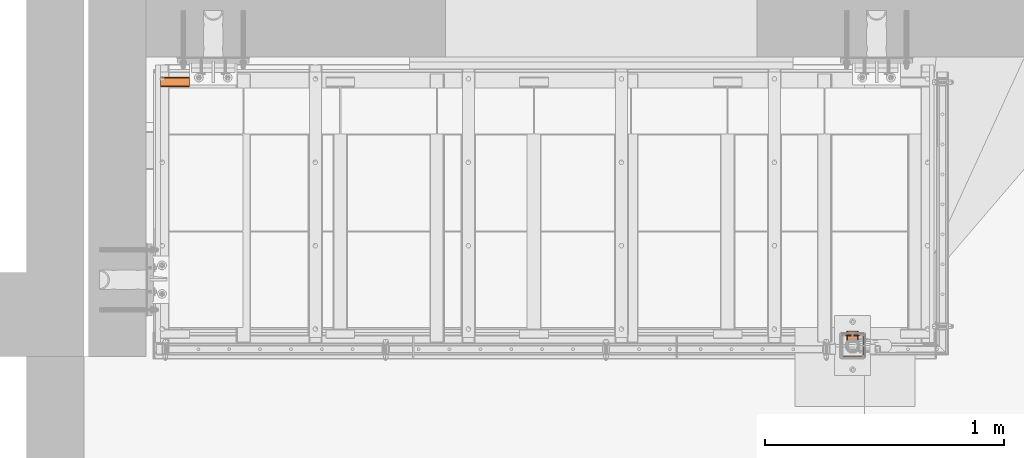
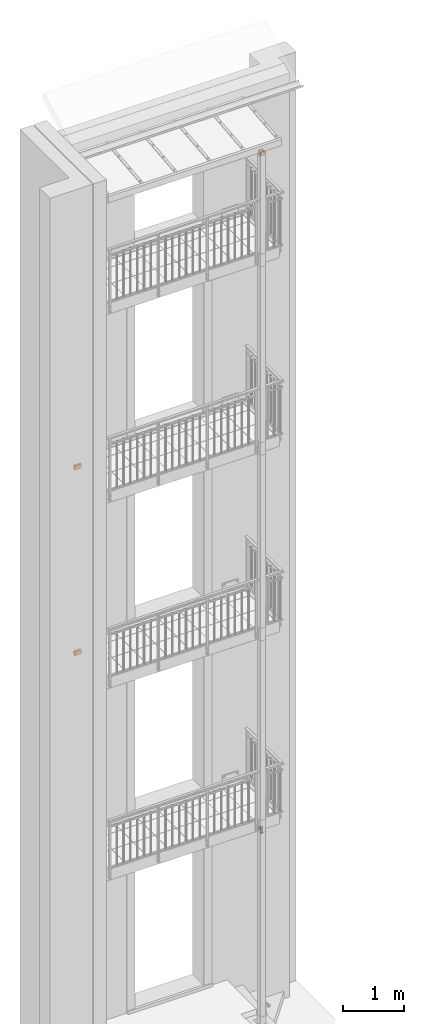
# One storey, part 92 of 162: 4 proxies.
"""IFC2X3 building model written with IfcOpenShell, lengths in millimetres."""

from ifc_helpers import new_model, entity, si_unit, converted_unit, origin_with_axes, place, context, project, spatial, faceted_brep, material, element, save


model = new_model("IFC2X3")

# Units and contexts
model_context = context("Model", 3, precision=1e-09, world=origin_with_axes())
ifc_project = project(units=[si_unit("LENGTHUNIT", "METRE", prefix="MILLI"), si_unit("AREAUNIT", "SQUARE_METRE"), si_unit("VOLUMEUNIT", "CUBIC_METRE"), converted_unit("PLANEANGLEUNIT", "DEGREE", entity("IfcPlaneAngleMeasure", 0.01745329), si_unit("PLANEANGLEUNIT", "RADIAN"), dimensions=[0, 0, 0, 0, 0, 0, 0])], contexts=[model_context])

# Site, building, storey
site_placement = place(None, origin_with_axes())
site = spatial("IfcSite", under=ifc_project, at=site_placement, Name="Hermannstra?e 1a, 60318 Frankfurt", CompositionType="ELEMENT")
building_placement = place(site_placement, origin_with_axes())
building = spatial("IfcBuilding", under=site, at=building_placement, Name="Struktur 1", CompositionType="ELEMENT")
storey_placement = place(building_placement, origin_with_axes())
storey = spatial("IfcBuildingStorey", under=building, at=storey_placement, Name="Default Storey", CompositionType="ELEMENT", Elevation=0.0)

# Proxies
ifc_material_1 = material(Name="Alu")
proxy_1_placement = place(None, origin_with_axes())
element("IfcBuildingElementProxy", 1, at=proxy_1_placement, inside=storey, material=ifc_material_1, ObjectType="-", context=model_context, shape_type="Brep", body=[
    faceted_brep([(2703.30936482, 2612.413221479, 7558.0), (2703.30936482, 2614.609373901, 7555.803847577), (2703.30936482, 2617.609373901, 7555.0), (2703.30936482, 2645.609373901, 7555.0), (2703.30936482, 2648.609373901, 7555.803847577), (2703.30936482, 2650.805526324, 7558.0), (2703.30936482, 2651.609373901, 7561.0), (2703.30936482, 2651.609373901, 7639.0), (2703.30936482, 2650.805526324, 7642.0), (2703.30936482, 2648.609373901, 7644.196152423), (2703.30936482, 2645.609373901, 7645.0), (2703.30936482, 2617.609373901, 7645.0), (2703.30936482, 2614.609373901, 7644.196152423), (2703.30936482, 2612.413221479, 7642.0), (2703.30936482, 2611.609373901, 7639.0), (2703.30936482, 2611.609373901, 7561.0), (2703.30936482, 2614.609373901, 7561.0), (2703.30936482, 2614.609373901, 7639.0), (2703.30936482, 2615.01129769, 7640.5), (2703.30936482, 2616.109373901, 7641.598076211), (2703.30936482, 2617.609373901, 7642.0), (2703.30936482, 2645.609373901, 7642.0), (2703.30936482, 2647.109373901, 7641.598076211), (2703.30936482, 2648.207450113, 7640.5), (2703.30936482, 2648.609373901, 7639.0), (2703.30936482, 2648.609373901, 7561.0), (2703.30936482, 2648.207450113, 7559.5), (2703.30936482, 2647.109373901, 7558.401923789), (2703.30936482, 2645.609373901, 7558.0), (2703.30936482, 2617.609373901, 7558.0), (2703.30936482, 2616.109373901, 7558.401923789), (2703.30936482, 2615.01129769, 7559.5), (2583.30936482, 2614.609373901, 7561.0), (2583.30936482, 2615.01129769, 7559.5), (2583.30936482, 2611.609373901, 7561.0), (2583.30936482, 2612.413221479, 7558.0), (2583.30936482, 2611.609373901, 7639.0), (2583.30936482, 2612.413221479, 7642.0), (2583.30936482, 2614.609373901, 7644.196152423), (2583.30936482, 2617.609373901, 7645.0), (2583.30936482, 2645.609373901, 7645.0), (2583.30936482, 2648.609373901, 7644.196152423), (2583.30936482, 2650.805526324, 7642.0), (2583.30936482, 2651.609373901, 7639.0), (2583.30936482, 2651.609373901, 7561.0), (2583.30936482, 2650.805526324, 7558.0), (2583.30936482, 2648.609373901, 7555.803847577), (2583.30936482, 2645.609373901, 7555.0), (2583.30936482, 2617.609373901, 7555.0), (2583.30936482, 2614.609373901, 7555.803847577), (2583.30936482, 2614.609373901, 7639.0), (2583.30936482, 2616.109373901, 7558.401923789), (2583.30936482, 2617.609373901, 7558.0), (2583.30936482, 2645.609373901, 7558.0), (2583.30936482, 2647.109373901, 7558.401923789), (2583.30936482, 2648.207450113, 7559.5), (2583.30936482, 2648.609373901, 7561.0), (2583.30936482, 2648.609373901, 7639.0), (2583.30936482, 2648.207450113, 7640.5), (2583.30936482, 2647.109373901, 7641.598076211), (2583.30936482, 2645.609373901, 7642.0), (2583.30936482, 2617.609373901, 7642.0), (2583.30936482, 2616.109373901, 7641.598076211), (2583.30936482, 2615.01129769, 7640.5)], [[[0, 1, 2, 3, 4, 5, 6, 7, 8, 9, 10, 11, 12, 13, 14, 15], [16, 17, 18, 19, 20, 21, 22, 23, 24, 25, 26, 27, 28, 29, 30, 31]], [[32, 16, 31, 33]], [[15, 34, 35, 0]], [[36, 37, 38, 39, 40, 41, 42, 43, 44, 45, 46, 47, 48, 49, 35, 34], [50, 32, 33, 51, 52, 53, 54, 55, 56, 57, 58, 59, 60, 61, 62, 63]], [[17, 16, 32, 50]], [[36, 34, 15, 14]], [[36, 14, 13, 37]], [[33, 31, 30, 51]], [[0, 35, 49, 1]], [[17, 50, 63, 18]], [[37, 13, 12, 38]], [[51, 30, 29, 52]], [[1, 49, 48, 2]], [[18, 63, 62, 19]], [[38, 12, 11, 39]], [[53, 52, 29, 28]], [[3, 2, 48, 47]], [[19, 62, 61, 20]], [[40, 39, 11, 10]], [[21, 20, 61, 60]], [[53, 28, 27, 54]], [[3, 47, 46, 4]], [[40, 10, 9, 41]], [[21, 60, 59, 22]], [[54, 27, 26, 55]], [[4, 46, 45, 5]], [[44, 6, 5, 45]], [[41, 9, 8, 42]], [[22, 59, 58, 23]], [[55, 26, 25, 56]], [[7, 6, 44, 43]], [[57, 24, 23, 58]], [[25, 24, 57, 56]], [[42, 8, 7, 43]]]),
])
proxy_2_placement = place(None, origin_with_axes())
element("IfcBuildingElementProxy", 2, at=proxy_2_placement, inside=storey, material=ifc_material_1, ObjectType="-", context=model_context, shape_type="Brep", body=[
    faceted_brep([(2703.30936482, 2612.413221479, 11257.999), (2703.30936482, 2614.609373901, 11255.802847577), (2703.30936482, 2617.609373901, 11254.999), (2703.30936482, 2645.609373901, 11254.999), (2703.30936482, 2648.609373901, 11255.802847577), (2703.30936482, 2650.805526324, 11257.999), (2703.30936482, 2651.609373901, 11260.999), (2703.30936482, 2651.609373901, 11338.999), (2703.30936482, 2650.805526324, 11341.999), (2703.30936482, 2648.609373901, 11344.195152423), (2703.30936482, 2645.609373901, 11344.999), (2703.30936482, 2617.609373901, 11344.999), (2703.30936482, 2614.609373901, 11344.195152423), (2703.30936482, 2612.413221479, 11341.999), (2703.30936482, 2611.609373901, 11338.999), (2703.30936482, 2611.609373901, 11260.999), (2703.30936482, 2614.609373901, 11260.999), (2703.30936482, 2614.609373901, 11338.999), (2703.30936482, 2615.01129769, 11340.499), (2703.30936482, 2616.109373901, 11341.597076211), (2703.30936482, 2617.609373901, 11341.999), (2703.30936482, 2645.609373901, 11341.999), (2703.30936482, 2647.109373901, 11341.597076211), (2703.30936482, 2648.207450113, 11340.499), (2703.30936482, 2648.609373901, 11338.999), (2703.30936482, 2648.609373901, 11260.999), (2703.30936482, 2648.207450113, 11259.499), (2703.30936482, 2647.109373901, 11258.400923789), (2703.30936482, 2645.609373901, 11257.999), (2703.30936482, 2617.609373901, 11257.999), (2703.30936482, 2616.109373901, 11258.400923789), (2703.30936482, 2615.01129769, 11259.499), (2583.30936482, 2614.609373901, 11260.999), (2583.30936482, 2615.01129769, 11259.499), (2583.30936482, 2611.609373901, 11260.999), (2583.30936482, 2612.413221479, 11257.999), (2583.30936482, 2611.609373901, 11338.999), (2583.30936482, 2612.413221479, 11341.999), (2583.30936482, 2614.609373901, 11344.195152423), (2583.30936482, 2617.609373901, 11344.999), (2583.30936482, 2645.609373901, 11344.999), (2583.30936482, 2648.609373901, 11344.195152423), (2583.30936482, 2650.805526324, 11341.999), (2583.30936482, 2651.609373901, 11338.999), (2583.30936482, 2651.609373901, 11260.999), (2583.30936482, 2650.805526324, 11257.999), (2583.30936482, 2648.609373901, 11255.802847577), (2583.30936482, 2645.609373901, 11254.999), (2583.30936482, 2617.609373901, 11254.999), (2583.30936482, 2614.609373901, 11255.802847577), (2583.30936482, 2614.609373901, 11338.999), (2583.30936482, 2616.109373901, 11258.400923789), (2583.30936482, 2617.609373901, 11257.999), (2583.30936482, 2645.609373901, 11257.999), (2583.30936482, 2647.109373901, 11258.400923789), (2583.30936482, 2648.207450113, 11259.499), (2583.30936482, 2648.609373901, 11260.999), (2583.30936482, 2648.609373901, 11338.999), (2583.30936482, 2648.207450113, 11340.499), (2583.30936482, 2647.109373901, 11341.597076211), (2583.30936482, 2645.609373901, 11341.999), (2583.30936482, 2617.609373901, 11341.999), (2583.30936482, 2616.109373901, 11341.597076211), (2583.30936482, 2615.01129769, 11340.499)], [[[0, 1, 2, 3, 4, 5, 6, 7, 8, 9, 10, 11, 12, 13, 14, 15], [16, 17, 18, 19, 20, 21, 22, 23, 24, 25, 26, 27, 28, 29, 30, 31]], [[32, 16, 31, 33]], [[15, 34, 35, 0]], [[36, 37, 38, 39, 40, 41, 42, 43, 44, 45, 46, 47, 48, 49, 35, 34], [50, 32, 33, 51, 52, 53, 54, 55, 56, 57, 58, 59, 60, 61, 62, 63]], [[17, 16, 32, 50]], [[36, 34, 15, 14]], [[36, 14, 13, 37]], [[33, 31, 30, 51]], [[0, 35, 49, 1]], [[17, 50, 63, 18]], [[37, 13, 12, 38]], [[51, 30, 29, 52]], [[1, 49, 48, 2]], [[18, 63, 62, 19]], [[38, 12, 11, 39]], [[53, 52, 29, 28]], [[3, 2, 48, 47]], [[19, 62, 61, 20]], [[40, 39, 11, 10]], [[21, 20, 61, 60]], [[53, 28, 27, 54]], [[3, 47, 46, 4]], [[40, 10, 9, 41]], [[21, 60, 59, 22]], [[54, 27, 26, 55]], [[4, 46, 45, 5]], [[44, 6, 5, 45]], [[41, 9, 8, 42]], [[22, 59, 58, 23]], [[55, 26, 25, 56]], [[7, 6, 44, 43]], [[57, 24, 23, 58]], [[25, 24, 57, 56]], [[42, 8, 7, 43]]]),
])
ifc_material_2 = material(Name="S235JR")
proxy_3_placement = place(None, origin_with_axes())
element("IfcBuildingElementProxy", 3, at=proxy_3_placement, inside=storey, material=ifc_material_2, ObjectType="-", context=model_context, shape_type="Brep", body=[
    faceted_brep([(5438.978371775, 1485.609373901, 17270.5005), (5438.978371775, 1489.609373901, 17270.5005), (5440.80886482, 1489.609373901, 17272.330993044), (5440.80886482, 1485.609373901, 17272.330993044), (5438.30836482, 1485.609373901, 17268.0), (5438.30836482, 1489.609373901, 17268.0), (5438.978371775, 1485.609373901, 17265.4995), (5438.978371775, 1489.609373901, 17265.4995), (5436.30936482, 1485.609373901, 17277.0), (5436.30936482, 1485.609373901, 17197.0), (5510.30936482, 1485.609373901, 17197.0), (5510.30936482, 1485.609373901, 17277.0), (5443.30936482, 1485.609373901, 17273.001), (5445.80986482, 1485.609373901, 17272.330993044), (5447.640357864, 1485.609373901, 17270.5005), (5448.31036482, 1485.609373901, 17268.0), (5447.640357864, 1485.609373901, 17265.4995), (5445.80986482, 1485.609373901, 17263.669006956), (5443.30936482, 1485.609373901, 17262.999), (5440.80886482, 1485.609373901, 17263.669006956), (5510.30936482, 1489.609373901, 17197.0), (5436.30936482, 1489.609373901, 17197.0), (5436.30936482, 1489.609373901, 17277.0), (5510.30936482, 1489.609373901, 17277.0), (5440.80886482, 1489.609373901, 17263.669006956), (5443.30936482, 1489.609373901, 17262.999), (5445.80986482, 1489.609373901, 17263.669006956), (5447.640357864, 1489.609373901, 17265.4995), (5448.31036482, 1489.609373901, 17268.0), (5447.640357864, 1489.609373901, 17270.5005), (5445.80986482, 1489.609373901, 17272.330993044), (5443.30936482, 1489.609373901, 17273.001), (5434.30936482, 1490.145272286, 17197.0), (5434.30936482, 1490.145272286, 17277.0), (5432.30936482, 1486.681170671, 17197.0), (5432.30936482, 1486.681170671, 17277.0), (5429.381161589, 1489.609373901, 17277.0), (5429.381161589, 1489.609373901, 17197.0), (5428.30936482, 1567.609373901, 17277.0), (5428.30936482, 1493.609373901, 17277.0), (5514.30936482, 1486.681170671, 17277.0), (5517.23756805, 1489.609373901, 17277.0), (5518.30936482, 1493.609373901, 17277.0), (5518.30936482, 1567.609373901, 17277.0), (5517.23756805, 1571.609373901, 17277.0), (5514.30936482, 1574.537577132, 17277.0), (5510.30936482, 1575.609373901, 17277.0), (5436.30936482, 1575.609373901, 17277.0), (5432.30936482, 1574.537577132, 17277.0), (5429.381161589, 1571.609373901, 17277.0), (5432.845263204, 1491.609373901, 17277.0), (5432.30936482, 1493.609373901, 17277.0), (5432.30936482, 1567.609373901, 17277.0), (5432.845263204, 1569.609373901, 17277.0), (5434.30936482, 1571.073475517, 17277.0), (5436.30936482, 1571.609373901, 17277.0), (5510.30936482, 1571.609373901, 17277.0), (5512.30936482, 1571.073475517, 17277.0), (5513.773466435, 1569.609373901, 17277.0), (5514.30936482, 1567.609373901, 17277.0), (5514.30936482, 1493.609373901, 17277.0), (5513.773466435, 1491.609373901, 17277.0), (5512.30936482, 1490.145272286, 17277.0), (5432.845263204, 1491.609373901, 17197.0), (5428.30936482, 1493.609373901, 17197.0), (5428.30936482, 1567.609373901, 17197.0), (5429.381161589, 1571.609373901, 17197.0), (5432.30936482, 1574.537577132, 17197.0), (5436.30936482, 1575.609373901, 17197.0), (5510.30936482, 1575.609373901, 17197.0), (5514.30936482, 1574.537577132, 17197.0), (5517.23756805, 1571.609373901, 17197.0), (5518.30936482, 1567.609373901, 17197.0), (5518.30936482, 1493.609373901, 17197.0), (5517.23756805, 1489.609373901, 17197.0), (5514.30936482, 1486.681170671, 17197.0), (5512.30936482, 1490.145272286, 17197.0), (5513.773466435, 1491.609373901, 17197.0), (5514.30936482, 1493.609373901, 17197.0), (5514.30936482, 1567.609373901, 17197.0), (5513.773466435, 1569.609373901, 17197.0), (5512.30936482, 1571.073475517, 17197.0), (5510.30936482, 1571.609373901, 17197.0), (5436.30936482, 1571.609373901, 17197.0), (5434.30936482, 1571.073475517, 17197.0), (5432.845263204, 1569.609373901, 17197.0), (5432.30936482, 1567.609373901, 17197.0), (5432.30936482, 1493.609373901, 17197.0), (5476.773466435, 1575.609373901, 17229.0), (5476.773466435, 1571.609373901, 17229.0), (5475.30936482, 1571.609373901, 17230.464101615), (5475.30936482, 1575.609373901, 17230.464101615), (5498.978371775, 1575.609373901, 17265.4995), (5498.978371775, 1571.609373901, 17265.4995), (5500.80886482, 1571.609373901, 17263.669006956), (5500.80886482, 1575.609373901, 17263.669006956), (5498.30836482, 1571.609373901, 17268.0), (5498.978371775, 1571.609373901, 17270.5005), (5500.80886482, 1571.609373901, 17272.330993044), (5503.30936482, 1571.609373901, 17273.001), (5505.80986482, 1571.609373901, 17272.330993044), (5507.640357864, 1571.609373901, 17270.5005), (5508.31036482, 1571.609373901, 17268.0), (5507.640357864, 1571.609373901, 17265.4995), (5505.80986482, 1571.609373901, 17263.669006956), (5503.30936482, 1571.609373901, 17262.999), (5469.845263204, 1571.609373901, 17229.0), (5471.30936482, 1571.609373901, 17230.464101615), (5473.30936482, 1571.609373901, 17231.0), (5477.30936482, 1571.609373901, 17227.0), (5476.773466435, 1571.609373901, 17225.0), (5475.30936482, 1571.609373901, 17223.535898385), (5473.30936482, 1571.609373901, 17223.0), (5471.30936482, 1571.609373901, 17223.535898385), (5469.845263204, 1571.609373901, 17225.0), (5469.30936482, 1571.609373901, 17227.0), (5503.30936482, 1575.609373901, 17262.999), (5505.80986482, 1575.609373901, 17263.669006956), (5507.640357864, 1575.609373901, 17265.4995), (5508.31036482, 1575.609373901, 17268.0), (5507.640357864, 1575.609373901, 17270.5005), (5505.80986482, 1575.609373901, 17272.330993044), (5503.30936482, 1575.609373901, 17273.001), (5500.80886482, 1575.609373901, 17272.330993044), (5498.978371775, 1575.609373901, 17270.5005), (5498.30836482, 1575.609373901, 17268.0), (5475.30936482, 1575.609373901, 17223.535898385), (5476.773466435, 1575.609373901, 17225.0), (5477.30936482, 1575.609373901, 17227.0), (5473.30936482, 1575.609373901, 17231.0), (5471.30936482, 1575.609373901, 17230.464101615), (5469.845263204, 1575.609373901, 17229.0), (5469.30936482, 1575.609373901, 17227.0), (5469.845263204, 1575.609373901, 17225.0), (5471.30936482, 1575.609373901, 17223.535898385), (5473.30936482, 1575.609373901, 17223.0)], [[[0, 1, 2, 3]], [[1, 0, 4, 5]], [[5, 4, 6, 7]], [[8, 9, 10, 11], [6, 4, 0, 3, 12, 13, 14, 15, 16, 17, 18, 19]], [[20, 21, 22, 23], [7, 24, 25, 26, 27, 28, 29, 30, 31, 2, 1, 5]], [[3, 2, 31, 12]], [[7, 6, 19, 24]], [[22, 21, 32, 33]], [[12, 31, 30, 13]], [[24, 19, 18, 25]], [[34, 35, 36, 37]], [[38, 39, 36, 35, 8, 11, 40, 41, 42, 43, 44, 45, 46, 47, 48, 49], [50, 51, 52, 53, 54, 55, 56, 57, 58, 59, 60, 61, 62, 23, 22, 33]], [[33, 32, 63, 50]], [[13, 30, 29, 14]], [[10, 9, 34, 37, 64, 65, 66, 67, 68, 69, 70, 71, 72, 73, 74, 75], [21, 20, 76, 77, 78, 79, 80, 81, 82, 83, 84, 85, 86, 87, 63, 32]], [[35, 34, 9, 8]], [[25, 18, 17, 26]], [[14, 29, 28, 15]], [[37, 36, 39, 64]], [[50, 63, 87, 51]], [[15, 28, 27, 16]], [[16, 27, 26, 17]], [[87, 86, 52, 51]], [[39, 38, 65, 64]], [[52, 86, 85, 53]], [[88, 89, 90, 91]], [[92, 93, 94, 95]], [[55, 83, 82, 56], [94, 93, 96, 97, 98, 99, 100, 101, 102, 103, 104, 105], [106, 107, 108, 90, 89, 109, 110, 111, 112, 113, 114, 115]], [[11, 10, 75, 40]], [[20, 23, 62, 76]], [[65, 38, 49, 66]], [[69, 68, 47, 46], [92, 95, 116, 117, 118, 119, 120, 121, 122, 123, 124, 125], [126, 127, 128, 88, 91, 129, 130, 131, 132, 133, 134, 135]], [[91, 90, 108, 129]], [[106, 131, 130, 107]], [[115, 132, 131, 106]], [[107, 130, 129, 108]], [[93, 92, 125, 96]], [[89, 88, 128, 109]], [[132, 115, 114, 133]], [[53, 85, 84, 54]], [[95, 94, 105, 116]], [[40, 75, 74, 41]], [[76, 62, 61, 77]], [[66, 49, 48, 67]], [[127, 110, 109, 128]], [[133, 114, 113, 134]], [[96, 125, 124, 97]], [[77, 61, 60, 78]], [[83, 55, 54, 84]], [[126, 111, 110, 127]], [[135, 112, 111, 126]], [[134, 113, 112, 135]], [[99, 122, 121, 100]], [[97, 124, 123, 98]], [[98, 123, 122, 99]], [[116, 105, 104, 117]], [[100, 121, 120, 101]], [[41, 74, 73, 42]], [[60, 59, 79, 78]], [[67, 48, 47, 68]], [[117, 104, 103, 118]], [[102, 119, 118, 103]], [[101, 120, 119, 102]], [[73, 72, 43, 42]], [[79, 59, 58, 80]], [[57, 81, 80, 58]], [[56, 82, 81, 57]], [[43, 72, 71, 44]], [[69, 46, 45, 70]], [[44, 71, 70, 45]]]),
])
proxy_4_placement = place(None, origin_with_axes())
element("IfcBuildingElementProxy", 4, at=proxy_4_placement, inside=storey, material=ifc_material_2, ObjectType="-", context=model_context, shape_type="Brep", body=[
    faceted_brep([(5452.350576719, 1542.609373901, 3767.572710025), (5452.327698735, 1542.609373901, 3767.382537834), (5452.30936482, 1592.609373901, 3767.0), (5450.201414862, 1542.609373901, 3727.833478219), (5452.350576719, 1542.609373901, 3726.048165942), (5452.350576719, 1542.609373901, 3732.427289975), (5452.327698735, 1542.609373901, 3732.617462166), (5452.313950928, 1542.609373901, 3732.808511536), (5452.30936482, 1542.609373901, 3733.0), (5452.30936482, 1542.609373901, 3767.0), (5452.313950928, 1542.609373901, 3767.191488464), (5452.350576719, 1542.609373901, 3773.951834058), (5450.201414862, 1542.609373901, 3772.166521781), (5448.797254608, 1542.609373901, 3769.751036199), (5448.30936482, 1542.609373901, 3767.0), (5448.30936482, 1542.609373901, 3733.0), (5448.797254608, 1542.609373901, 3730.248963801), (5452.563771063, 1542.974289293, 3768.403750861), (5452.845263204, 1592.609373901, 3769.0), (5452.911785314, 1543.540321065, 3769.111024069), (5449.381161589, 1592.609373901, 3771.0), (5448.30936482, 1592.609373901, 3767.0), (5452.30936482, 1592.609373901, 3773.92820323), (5456.30936482, 1592.609373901, 3775.0), (5490.30936482, 1592.609373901, 3775.0), (5494.30936482, 1592.609373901, 3773.92820323), (5497.23756805, 1592.609373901, 3771.0), (5498.30936482, 1592.609373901, 3767.0), (5498.30936482, 1592.609373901, 3733.0), (5497.23756805, 1592.609373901, 3729.0), (5494.30936482, 1592.609373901, 3726.07179677), (5490.30936482, 1592.609373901, 3725.0), (5456.30936482, 1592.609373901, 3725.0), (5452.30936482, 1592.609373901, 3726.07179677), (5449.381161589, 1592.609373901, 3729.0), (5448.30936482, 1592.609373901, 3733.0), (5454.30936482, 1592.609373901, 3770.464101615), (5452.30936482, 1592.609373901, 3733.0), (5452.845263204, 1592.609373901, 3731.0), (5454.30936482, 1592.609373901, 3729.535898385), (5456.30936482, 1592.609373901, 3729.0), (5490.30936482, 1592.609373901, 3729.0), (5492.30936482, 1592.609373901, 3729.535898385), (5493.773466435, 1592.609373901, 3731.0), (5494.30936482, 1592.609373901, 3733.0), (5494.30936482, 1592.609373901, 3767.0), (5493.773466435, 1592.609373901, 3769.0), (5492.30936482, 1592.609373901, 3770.464101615), (5490.30936482, 1592.609373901, 3771.0), (5456.30936482, 1592.609373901, 3771.0), (5453.822811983, 1544.876293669, 3770.133217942), (5456.30936482, 1547.7636969, 3771.0), (5456.30936482, 1547.7636969, 3775.0), (5464.117609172, 1552.942811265, 3771.0), (5464.117609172, 1552.942811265, 3775.0), (5452.573414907, 1542.990448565, 3731.570836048), (5490.30936482, 1547.763696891, 3771.0), (5482.50112047, 1552.942811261, 3771.0), (5473.309364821, 1554.760373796, 3771.0), (5473.309364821, 1554.760373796, 3775.0), (5452.924848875, 1543.560904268, 3730.868118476), (5482.50112047, 1552.942811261, 3775.0), (5490.30936482, 1547.763696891, 3775.0), (5453.844527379, 1544.905878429, 3729.84970281), (5456.30936482, 1547.7636969, 3725.0), (5456.30936482, 1547.7636969, 3729.0), (5464.117609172, 1552.942811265, 3725.0), (5464.117609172, 1552.942811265, 3729.0), (5490.30936482, 1547.763696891, 3725.0), (5482.50112047, 1552.942811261, 3725.0), (5473.309364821, 1554.760373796, 3725.0), (5473.309364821, 1554.760373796, 3729.0), (5493.706944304, 1543.540321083, 3769.111024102), (5494.054958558, 1542.974289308, 3768.403750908), (5494.268152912, 1542.609373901, 3773.951834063), (5494.268152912, 1542.609373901, 3767.572710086), (5492.795917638, 1544.876293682, 3770.133217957), (5482.50112047, 1552.942811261, 3729.0), (5490.30936482, 1547.763696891, 3729.0), (5496.417314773, 1542.609373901, 3727.833478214), (5497.82147503, 1542.609373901, 3730.248963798), (5498.30936482, 1542.609373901, 3733.0), (5498.30936482, 1542.609373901, 3767.0), (5497.82147503, 1542.609373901, 3769.751036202), (5496.417314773, 1542.609373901, 3772.166521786), (5494.2910309, 1542.609373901, 3767.382537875), (5494.304778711, 1542.609373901, 3767.191488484), (5494.30936482, 1542.609373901, 3767.0), (5494.30936482, 1542.609373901, 3733.0), (5494.304778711, 1542.609373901, 3732.808511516), (5494.2910309, 1542.609373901, 3732.617462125), (5494.268152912, 1542.609373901, 3732.427289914), (5494.268152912, 1542.609373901, 3726.048165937), (5492.774202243, 1544.90587844, 3729.849702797), (5493.693880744, 1543.560904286, 3730.868118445), (5494.045314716, 1542.990448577, 3731.570836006)], [[[0, 1, 2]], [[3, 4, 5, 6, 7, 8, 9, 10, 1, 0, 11, 12, 13, 14, 15, 16]], [[17, 0, 2]], [[17, 11, 0]], [[10, 2, 1]], [[17, 2, 18]], [[19, 17, 18]], [[17, 19, 11]], [[10, 9, 2]], [[20, 21, 13]], [[22, 20, 12]], [[20, 22, 23, 24, 25, 26, 27, 28, 29, 30, 31, 32, 33, 34, 35, 21], [36, 18, 2, 37, 38, 39, 40, 41, 42, 43, 44, 45, 46, 47, 48, 49]], [[50, 19, 18]], [[19, 50, 11]], [[9, 8, 37, 2]], [[20, 13, 12]], [[21, 14, 13]], [[15, 14, 21, 35]], [[22, 12, 11]], [[50, 18, 36]], [[50, 51, 52]], [[50, 52, 11]], [[51, 53, 54, 52]], [[7, 6, 37]], [[7, 37, 8]], [[5, 37, 6]], [[16, 15, 35]], [[5, 4, 55]], [[23, 22, 11]], [[51, 50, 36]], [[49, 48, 56, 57, 58, 53, 51]], [[23, 11, 52]], [[53, 58, 59, 54]], [[5, 55, 37]], [[16, 35, 34]], [[60, 55, 4]], [[51, 36, 49]], [[59, 61, 62, 24, 23, 52, 54]], [[3, 16, 34]], [[55, 38, 37]], [[55, 60, 38]], [[63, 60, 4]], [[58, 57, 61, 59]], [[4, 3, 33]], [[3, 34, 33]], [[60, 63, 38]], [[63, 4, 64]], [[57, 56, 62, 61]], [[64, 4, 33]], [[63, 39, 38]], [[65, 63, 64]], [[64, 66, 67, 65]], [[56, 48, 47]], [[32, 31, 68, 69, 70, 66, 64]], [[64, 33, 32]], [[63, 65, 39]], [[66, 70, 71, 67]], [[72, 73, 74]], [[75, 74, 73]], [[72, 76, 46]], [[76, 56, 47]], [[56, 76, 62]], [[76, 72, 74]], [[65, 40, 39]], [[71, 77, 78, 41, 40, 65, 67]], [[73, 72, 46]], [[75, 73, 45]], [[79, 80, 81, 82, 83, 84, 74, 75, 85, 86, 87, 88, 89, 90, 91, 92]], [[76, 47, 46]], [[62, 25, 24]], [[76, 74, 62]], [[77, 71, 70, 69]], [[78, 77, 69, 68]], [[73, 46, 45]], [[75, 45, 85]], [[62, 74, 25]], [[93, 78, 68]], [[94, 93, 92]], [[95, 94, 92]], [[91, 90, 44]], [[95, 92, 91]], [[86, 85, 45]], [[74, 84, 25]], [[89, 88, 44]], [[89, 44, 90]], [[93, 68, 92]], [[78, 42, 41]], [[78, 93, 42]], [[93, 94, 43]], [[94, 95, 43]], [[95, 91, 44]], [[86, 45, 87]], [[88, 87, 45, 44]], [[83, 27, 26]], [[84, 26, 25]], [[31, 92, 68]], [[93, 43, 42]], [[82, 81, 28, 27]], [[95, 44, 43]], [[83, 82, 27]], [[84, 83, 26]], [[31, 30, 92]], [[30, 79, 92]], [[28, 81, 80]], [[30, 29, 79]], [[29, 28, 80]], [[29, 80, 79]]]),
    faceted_brep([(5452.458054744, 1538.082250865, 3768.084774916), (5452.349523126, 1537.772303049, 3767.573274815), (5452.436342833, 1542.755917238, 3768.004005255), (5452.350714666, 1537.775786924, 3732.418484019), (5452.458814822, 1538.084468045, 3731.912278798), (5452.425069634, 1542.736564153, 3732.039862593), (5452.30836482, 1542.533320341, 3732.999), (5452.30836482, 1542.533320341, 3767.001), (5450.997674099, 1539.851178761, 3673.0), (5450.997674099, 1539.851178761, 3799.0), (5452.749261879, 1543.278325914, 3768.826042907), (5452.775277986, 1538.914394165, 3768.876444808), (5453.074332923, 1539.618590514, 3799.0), (5452.733221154, 1543.252318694, 3731.205072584), (5452.784214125, 1538.93644692, 3731.106836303), (5453.074332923, 1539.618590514, 3673.0), (5452.30836482, 1537.650716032, 3732.999), (5452.30836482, 1537.650716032, 3767.001), (5453.690911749, 1544.692624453, 3770.025687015), (5453.674163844, 1540.860237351, 3770.011116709), (5453.674712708, 1540.861329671, 3729.988368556), (5453.659785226, 1544.649160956, 3730.001497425), (5449.15936481, 1530.60937387, 3673.0), (5449.15936481, 1530.60937387, 3799.0), (5451.15936481, 1530.60937387, 3799.0), (5456.30836482, 1544.807560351, 3771.001), (5456.232736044, 1513.532745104, 3673.0), (5450.997674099, 1521.367568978, 3673.0), (5456.232736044, 1547.686002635, 3673.0), (5464.067559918, 1552.92106458, 3673.0), (5473.30936481, 1554.75937387, 3673.0), (5482.551169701, 1552.92106458, 3673.0), (5490.385993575, 1547.686002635, 3673.0), (5495.62105552, 1539.851178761, 3673.0), (5497.45936481, 1530.60937387, 3673.0), (5495.62105552, 1521.367568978, 3673.0), (5490.385993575, 1513.532745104, 3673.0), (5482.551169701, 1508.29768316, 3673.0), (5473.30936481, 1506.45937387, 3673.0), (5464.067559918, 1508.29768316, 3673.0), (5451.15936481, 1530.60937387, 3673.0), (5453.074332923, 1521.600157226, 3673.0), (5458.488121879, 1514.148715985, 3673.0), (5466.464638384, 1509.543472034, 3673.0), (5475.624670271, 1508.580713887, 3673.0), (5484.38436481, 1511.426911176, 3673.0), (5491.229091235, 1517.589930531, 3673.0), (5494.975334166, 1526.004129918, 3673.0), (5494.975334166, 1535.214617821, 3673.0), (5491.229091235, 1543.628817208, 3673.0), (5484.38436481, 1549.791836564, 3673.0), (5475.624670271, 1552.638033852, 3673.0), (5466.464638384, 1551.675275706, 3673.0), (5458.488121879, 1547.070031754, 3673.0), (5456.30836482, 1544.807560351, 3728.999), (5456.232736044, 1547.686002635, 3799.0), (5450.997674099, 1521.367568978, 3799.0), (5456.232736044, 1513.532745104, 3799.0), (5464.067559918, 1508.29768316, 3799.0), (5473.30936481, 1506.45937387, 3799.0), (5482.551169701, 1508.29768316, 3799.0), (5490.385993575, 1513.532745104, 3799.0), (5495.62105552, 1521.367568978, 3799.0), (5497.45936481, 1530.60937387, 3799.0), (5495.62105552, 1539.851178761, 3799.0), (5490.385993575, 1547.686002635, 3799.0), (5482.551169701, 1552.92106458, 3799.0), (5473.30936481, 1554.75937387, 3799.0), (5464.067559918, 1552.92106458, 3799.0), (5458.488121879, 1547.070031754, 3799.0), (5466.464638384, 1551.675275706, 3799.0), (5475.624670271, 1552.638033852, 3799.0), (5484.38436481, 1549.791836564, 3799.0), (5491.229091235, 1543.628817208, 3799.0), (5494.975334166, 1535.214617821, 3799.0), (5494.975334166, 1526.004129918, 3799.0), (5491.229091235, 1517.589930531, 3799.0), (5484.38436481, 1511.426911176, 3799.0), (5475.624670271, 1508.580713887, 3799.0), (5466.464638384, 1509.543472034, 3799.0), (5458.488121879, 1514.148715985, 3799.0), (5453.074332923, 1521.600157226, 3799.0), (5456.30836482, 1547.761297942, 3771.001), (5456.30836482, 1547.761297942, 3728.999), (5482.501849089, 1552.94143004, 3771.001), (5490.31036482, 1547.76129792, 3771.001), (5490.31036482, 1544.807560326, 3771.001), (5484.411161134, 1549.776340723, 3771.001), (5477.16583286, 1552.421071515, 3771.001), (5469.452896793, 1552.421071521, 3771.001), (5462.207568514, 1549.77634074, 3771.001), (5464.116880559, 1552.941430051, 3771.001), (5473.309364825, 1554.75937387, 3771.001), (5477.16583286, 1552.421071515, 3728.999), (5484.411161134, 1549.776340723, 3728.999), (5490.31036482, 1544.807560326, 3728.999), (5490.31036482, 1547.76129792, 3728.999), (5482.501849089, 1552.94143004, 3728.999), (5473.309364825, 1554.75937387, 3728.999), (5464.116880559, 1552.941430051, 3728.999), (5462.207568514, 1549.77634074, 3728.999), (5469.452896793, 1552.421071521, 3728.999), (5492.958944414, 1544.649160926, 3769.998502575), (5492.944565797, 1540.860237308, 3770.011116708), (5493.885508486, 1543.25231866, 3768.794927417), (5494.193660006, 1542.736564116, 3767.960137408), (5492.944565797, 1540.860237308, 3729.988883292), (5492.958944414, 1544.649160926, 3730.001497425), (5494.160674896, 1538.082250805, 3768.084774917), (5493.843451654, 1538.914394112, 3731.123555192), (5493.885508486, 1543.25231866, 3731.205072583), (5493.843451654, 1538.914394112, 3768.876444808), (5494.193660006, 1542.736564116, 3732.039862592), (5494.31036482, 1542.533320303, 3767.001), (5494.269206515, 1537.772302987, 3767.573274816), (5494.160674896, 1538.082250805, 3731.915225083), (5494.31036482, 1542.533320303, 3732.999), (5494.31036482, 1537.650715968, 3767.001), (5494.31036482, 1537.650715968, 3732.999), (5494.269206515, 1537.772302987, 3732.426725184)], [[[0, 1, 2]], [[3, 4, 5]], [[3, 5, 6]], [[1, 7, 2]], [[7, 6, 8, 9]], [[7, 9, 2]], [[0, 2, 10]], [[11, 0, 10]], [[12, 1, 0]], [[6, 5, 8]], [[4, 13, 5]], [[4, 14, 13]], [[4, 3, 15]], [[3, 6, 16]], [[1, 17, 7]], [[6, 7, 17, 16]], [[10, 2, 9]], [[11, 10, 18]], [[12, 17, 1]], [[19, 11, 18]], [[12, 0, 11]], [[5, 13, 8]], [[4, 15, 14]], [[14, 20, 13]], [[20, 21, 13]], [[3, 16, 15]], [[9, 8, 22, 23]], [[18, 10, 9]], [[12, 24, 17]], [[25, 19, 18]], [[12, 11, 19]], [[21, 8, 13]], [[26, 27, 22, 8, 28, 29, 30, 31, 32, 33, 34, 35, 36, 37, 38, 39], [40, 41, 42, 43, 44, 45, 46, 47, 48, 49, 50, 51, 52, 53, 15]], [[20, 14, 15]], [[20, 54, 21]], [[40, 15, 16]], [[17, 24, 40, 16]], [[55, 9, 23, 56, 57, 58, 59, 60, 61, 62, 63, 64, 65, 66, 67, 68], [24, 12, 69, 70, 71, 72, 73, 74, 75, 76, 77, 78, 79, 80, 81]], [[23, 22, 27, 56]], [[18, 9, 55]], [[25, 18, 82]], [[12, 19, 25]], [[21, 28, 8]], [[54, 20, 15]], [[54, 83, 21]], [[82, 18, 55]], [[84, 85, 86, 87, 88, 89, 90, 25, 82, 91, 92]], [[69, 12, 25]], [[21, 83, 28]], [[54, 15, 53]], [[93, 94, 95, 96, 97, 98, 99, 83, 54, 100, 101]], [[40, 24, 81, 41]], [[56, 27, 26, 57]], [[82, 55, 68]], [[69, 25, 90]], [[83, 29, 28]], [[100, 54, 53]], [[91, 82, 68]], [[70, 69, 90]], [[83, 99, 29]], [[100, 53, 52]], [[41, 81, 80, 42]], [[57, 26, 39, 58]], [[92, 91, 67]], [[91, 68, 67]], [[70, 90, 89]], [[99, 98, 30]], [[99, 30, 29]], [[101, 100, 52]], [[84, 92, 67]], [[71, 70, 89]], [[98, 97, 30]], [[101, 52, 51]], [[42, 80, 79, 43]], [[58, 39, 38, 59]], [[84, 67, 66]], [[71, 89, 88]], [[97, 31, 30]], [[93, 101, 51]], [[85, 84, 66]], [[72, 71, 88]], [[72, 88, 87]], [[97, 96, 31]], [[93, 51, 50]], [[94, 93, 50]], [[43, 79, 78, 44]], [[59, 38, 37, 60]], [[86, 85, 102]], [[85, 66, 65]], [[72, 87, 86]], [[103, 86, 102]], [[103, 102, 104]], [[105, 104, 64]], [[96, 32, 31]], [[95, 94, 50]], [[106, 96, 95]], [[106, 107, 96]], [[108, 104, 105]], [[109, 110, 107]], [[102, 64, 104]], [[102, 85, 65]], [[73, 72, 86]], [[73, 86, 103]], [[111, 103, 104]], [[108, 111, 104]], [[110, 112, 33]], [[113, 105, 64]], [[96, 107, 32]], [[107, 110, 33]], [[95, 50, 49]], [[106, 95, 49]], [[106, 109, 107]], [[44, 78, 77, 45]], [[60, 37, 36, 61]], [[114, 108, 105]], [[114, 105, 113]], [[109, 115, 110]], [[115, 112, 110]], [[102, 65, 64]], [[111, 73, 103]], [[111, 108, 74]], [[116, 33, 112]], [[113, 64, 33, 116]], [[107, 33, 32]], [[109, 106, 49]], [[108, 114, 74]], [[114, 113, 117]], [[113, 116, 118, 117]], [[109, 48, 115]], [[115, 119, 112]], [[119, 116, 112]], [[35, 62, 61, 36]], [[111, 74, 73]], [[109, 49, 48]], [[45, 77, 76, 46]], [[117, 74, 114]], [[119, 115, 48]], [[119, 118, 116]], [[62, 35, 34, 63]], [[63, 34, 33, 64]], [[117, 118, 48, 74]], [[118, 119, 48]], [[46, 76, 75, 47]], [[74, 48, 47, 75]]]),
])

save(model, "model.ifc")
